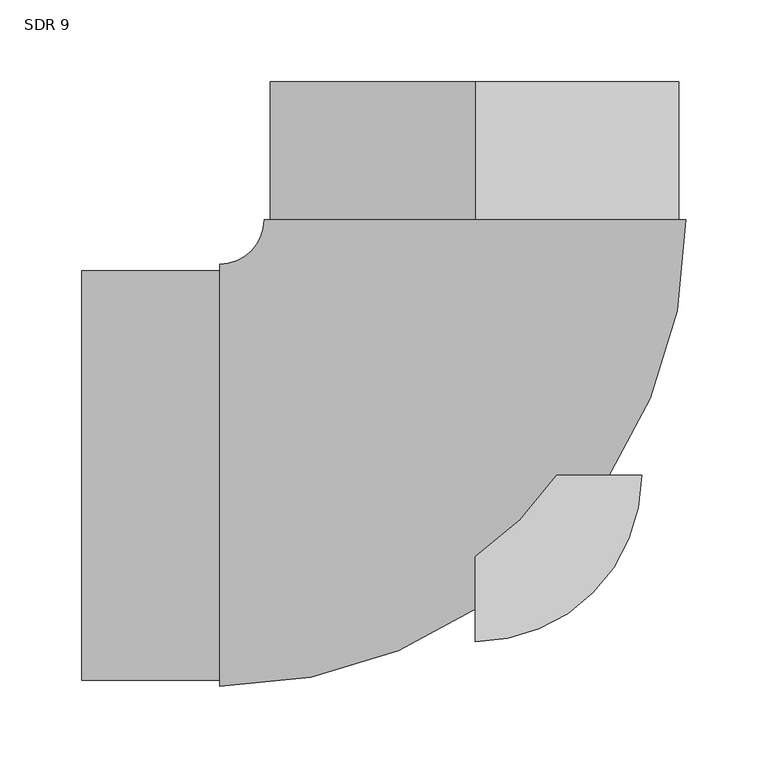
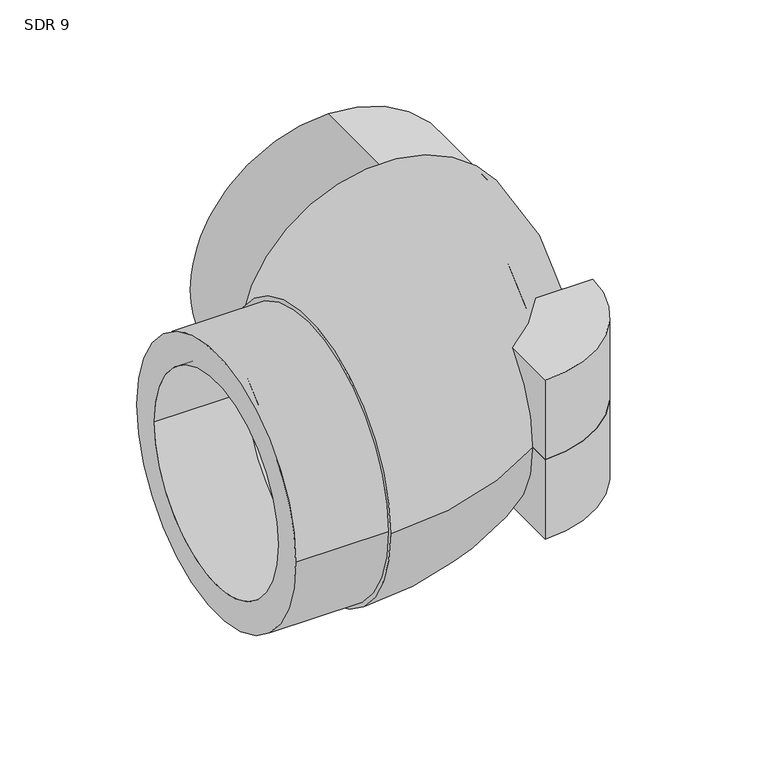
"""IFC4 building model written with IfcOpenShell, lengths in millimetres: pipe fitting geometry, Aquatherm - Elbow BW Molded : SDR 9."""

from ifc_helpers import new_model, si_unit, point, frame, frame_2d, origin, origin_with_axes, origin_2d, place, context, project, spatial, polyline, circle_curve, ellipse_curve, trimmed, segment, composite_curve, outline, extrude, source, transform, mapped, element, save
from ifc_brep_helpers import plane_surface, revolved_surface, advanced_brep


def sdr_9_c58e03e1(model_context):
    return source(origin(), model_context, "Body", "SolidModel", [
        extrude(outline(composite_curve([segment(polyline([(0.0, -101.6), (0.0, 0.0), (101.5999995, 0.0100552)]), True, "CONTINUOUS"), segment(trimmed(circle_curve(origin_2d(), 101.6), [point((101.5999995, 0.0100552))], [point((0.0, -101.6))], False, "CARTESIAN"), True, "CONTINUOUS")], self_intersect=False)), frame((0.0, 0.0, -76.2), z_axis=(0.0, 0.0, 1.0), x_axis=(1.0, 0.0, 0.0)), (0.0, 0.0, 1.0), 76.2),
        extrude(outline(composite_curve([segment(trimmed(circle_curve(origin_2d(), 101.6), [point((101.5999995, 0.0100552))], [point((0.0, -101.6))], False, "CARTESIAN"), True, "CONTINUOUS"), segment(polyline([(0.0, -101.6), (0.0, 0.0), (101.5999995, 0.0100552)]), True, "CONTINUOUS")], self_intersect=False)), origin_with_axes(), (0.0, 0.0, 1.0), 76.2),
        extrude(outline(composite_curve([segment(trimmed(circle_curve(frame_2d((0.0, -124.968)), 124.968), [point((0.0, -249.936))], [point((0.0, 0.0))], False, "CARTESIAN"), True, "CONTINUOUS"), segment(trimmed(circle_curve(frame_2d((0.0, -124.968)), 124.968), [point((0.0, 0.0))], [point((0.0, -249.936))], False, "CARTESIAN"), True, "CONTINUOUS")], self_intersect=False), holes=[composite_curve([segment(trimmed(circle_curve(frame_2d((0.0, -124.968)), 97.1973333), [point((0.0, -222.1653333))], [point((0.0, -27.7706667))], True, "CARTESIAN"), True, "CONTINUOUS"), segment(trimmed(circle_curve(frame_2d((0.0, -124.968)), 97.1973333), [point((0.0, -27.7706667))], [point((0.0, -222.1653333))], True, "CARTESIAN"), True, "CONTINUOUS")], self_intersect=False)]), frame((-0.0154411, 156.0194992, 124.968), z_axis=(-9.896884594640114e-05, 0.9999999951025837, 0.0), x_axis=(-0.9999999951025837, -9.896884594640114e-05, 0.0)), (0.0, 0.0, 1.0), 84.0105),
        extrude(outline(composite_curve([segment(trimmed(circle_curve(frame_2d((-0.1496481, 0.0)), 124.968), [point((124.8183519, 0.0))], [point((-125.1176481, 0.0))], False, "CARTESIAN"), True, "CONTINUOUS"), segment(trimmed(circle_curve(frame_2d((-0.1496481, 0.0)), 124.968), [point((-125.1176481, 0.0))], [point((124.8183519, 0.0))], False, "CARTESIAN"), True, "CONTINUOUS")], self_intersect=False), holes=[composite_curve([segment(trimmed(circle_curve(origin_2d(), 97.1973333), [point((97.1973333, 0.0))], [point((-97.1973333, 0.0))], True, "CARTESIAN"), True, "CONTINUOUS"), segment(trimmed(circle_curve(origin_2d(), 97.1973333), [point((-97.1973333, 0.0))], [point((97.1973333, 0.0))], True, "CARTESIAN"), True, "CONTINUOUS")], self_intersect=False)]), frame((-240.03, 0.0, 0.0), z_axis=(1.0, 0.0, 0.0), x_axis=(0.0, 1.0, 0.0)), (0.0, 0.0, 1.0), 84.0105),
        advanced_brep(
        [(-156.0195, -128.71704, 0.0), (-156.0195, 128.71704, 0.0), (-156.0195, -97.1973333, 0.0), (-156.0195, 97.1973333, 0.0), (128.7015983, 156.0322382, 0.0), (-128.7324804, 156.0067603, 0.0), (97.1818918, 156.0291187, 0.0), (-97.2127739, 156.0098797, 0.0)],
        [
            (0, 1, circle_curve(frame((-156.0195, 0.0, 0.0), z_axis=(-1.0, 0.0, 0.0), x_axis=(0.0, 1.0, 0.0)), 128.71704)),
            (1, 0, circle_curve(frame((-156.0195, 0.0, 0.0), z_axis=(-1.0, 0.0, 0.0), x_axis=(0.0, 1.0, 0.0)), 128.71704)),
            (2, 3, circle_curve(frame((-156.0195, 0.0, 0.0), z_axis=(1.0, 0.0, 0.0), x_axis=(0.0, 1.0, 0.0)), 97.1973333)),
            (3, 2, circle_curve(frame((-156.0195, 0.0, 0.0), z_axis=(1.0, 0.0, 0.0), x_axis=(0.0, 1.0, 0.0)), 97.1973333)),
            (4, 5, circle_curve(frame((-0.0154411, 156.0194992, 0.0), z_axis=(-9.896884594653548e-05, 0.9999999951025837, 0.0), x_axis=(-0.9999999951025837, -9.896884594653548e-05, 0.0)), 128.71704)),
            (5, 4, circle_curve(frame((-0.0154411, 156.0194992, 0.0), z_axis=(-9.896884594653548e-05, 0.9999999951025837, 0.0), x_axis=(-0.9999999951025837, -9.896884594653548e-05, 0.0)), 128.71704)),
            (6, 7, circle_curve(frame((-0.0154411, 156.0194992, 0.0), z_axis=(9.896884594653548e-05, -0.9999999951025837, 0.0), x_axis=(-0.9999999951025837, -9.896884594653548e-05, 0.0)), 97.1973333)),
            (7, 6, circle_curve(frame((-0.0154411, 156.0194992, 0.0), z_axis=(9.896884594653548e-05, -0.9999999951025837, 0.0), x_axis=(-0.9999999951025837, -9.896884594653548e-05, 0.0)), 97.1973333)),
            (5, 1, circle_curve(frame((-156.0195, 156.0040597, 0.0), z_axis=(0.0, 0.0, -1.0), x_axis=(0.0, -1.0, 0.0)), 27.2870197)),
            (0, 4, circle_curve(frame((-156.0195, 156.0040597, 0.0), z_axis=(0.0, 0.0, 1.0), x_axis=(0.0, -1.0, 0.0)), 284.7210997)),
            (7, 3, circle_curve(frame((-156.0195, 156.0040597, 0.0), z_axis=(0.0, 0.0, -1.0), x_axis=(0.0, -1.0, 0.0)), 58.8067264)),
            (2, 6, circle_curve(frame((-156.0195, 156.0040597, 0.0), z_axis=(0.0, 0.0, 1.0), x_axis=(0.0, -1.0, 0.0)), 253.201393)),
        ],
        [
            plane_surface(frame((-156.0195, 0.0, 0.0), z_axis=(-1.0, 0.0, 0.0), x_axis=(0.0, 0.0, 1.0))),
            plane_surface(frame((-0.0154411, 156.0194992, 0.0), z_axis=(-9.896884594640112e-05, 0.9999999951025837, 0.0), x_axis=(0.0, 0.0, 1.0))),
            revolved_surface(trimmed(ellipse_curve(frame((-156.0195, 0.0, 0.0), z_axis=(-1.0, 0.0, 0.0), x_axis=(0.0, 1.0, 0.0)), 128.71704, 128.71704), [point((-156.0195, -128.71704, 0.0))], [point((-156.0195, 128.71704, 0.0))], True, "CARTESIAN"), (-156.0195, 156.0040597, 0.0), (0.0, 0.0, 1.0)),
            revolved_surface(trimmed(ellipse_curve(frame((-156.0195, 0.0, 0.0), z_axis=(-1.0, 0.0, 0.0), x_axis=(0.0, 1.0, 0.0)), 128.71704, 128.71704), [point((-156.0195, 128.71704, 0.0))], [point((-156.0195, -128.71704, 0.0))], True, "CARTESIAN"), (-156.0195, 156.0040597, 0.0), (0.0, 0.0, 1.0)),
            revolved_surface(trimmed(ellipse_curve(frame((-156.0195, 0.0, 0.0), z_axis=(1.0, 0.0, 0.0), x_axis=(0.0, 1.0, 0.0)), 97.1973333, 97.1973333), [point((-156.0195, -97.1973333, 0.0))], [point((-156.0195, 97.1973333, 0.0))], True, "CARTESIAN"), (-156.0195, 156.0040597, 0.0), (0.0, 0.0, 1.0)),
            revolved_surface(trimmed(ellipse_curve(frame((-156.0195, 0.0, 0.0), z_axis=(1.0, 0.0, 0.0), x_axis=(0.0, 1.0, 0.0)), 97.1973333, 97.1973333), [point((-156.0195, 97.1973333, 0.0))], [point((-156.0195, -97.1973333, 0.0))], True, "CARTESIAN"), (-156.0195, 156.0040597, 0.0), (0.0, 0.0, 1.0)),
        ],
        [
            (0, [[1, 2], [3, 4]]),
            (1, [[5, 6], [7, 8]]),
            (2, [[9, -1, 10, -6]]),
            (3, [[-10, -2, -9, -5]]),
            (4, [[11, -3, 12, -8]]),
            (5, [[-12, -4, -11, -7]]),
        ],
    ),
    ])


if __name__ == "__main__":
    model = new_model("IFC4")
    model_context = context("Model", 3, world=origin())
    ifc_project = project(units=[si_unit("LENGTHUNIT", "METRE", prefix="MILLI")], contexts=[model_context])
    site = spatial("IfcSite", under=ifc_project)
    building = spatial("IfcBuilding", under=site)
    placement = place(None, origin())
    sdr_9_shape = sdr_9_c58e03e1(model_context)
    element("IfcPipeFitting", 1, ObjectType="Aquatherm - Elbow BW Molded : SDR 9", at=placement, inside=building, context=model_context, shape_type="MappedRepresentation", body=[
        mapped(sdr_9_shape, transform((0.0, 0.0, 0.0), x_axis=(1.0, 0.0, 0.0), y_axis=(0.0, 1.0, 0.0), z_axis=(0.0, 0.0, 1.0))),
    ])
    save(model, "model.ifc")
